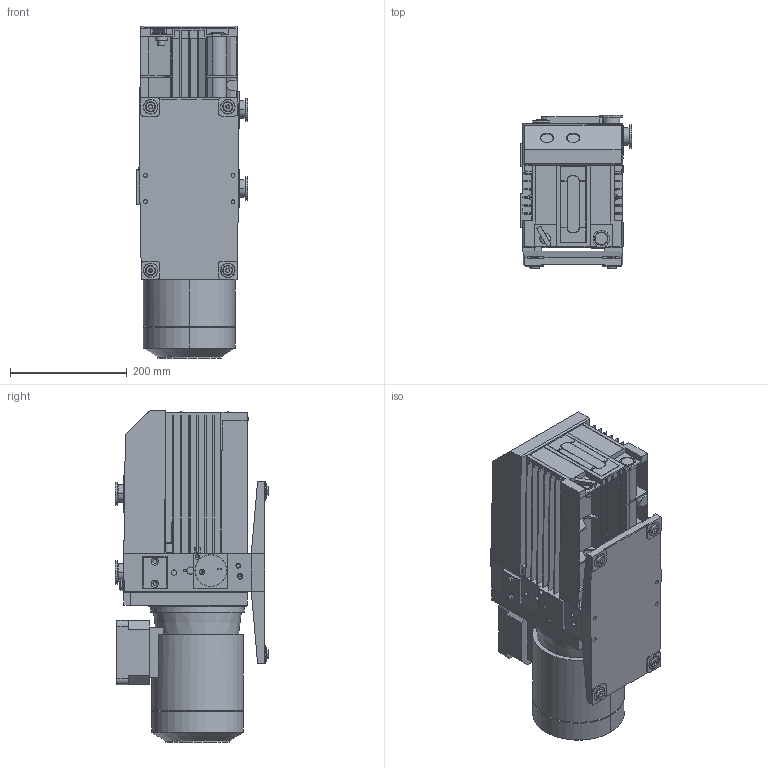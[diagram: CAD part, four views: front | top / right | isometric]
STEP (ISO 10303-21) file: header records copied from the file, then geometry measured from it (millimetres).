
FILE_DESCRIPTION((''),'2;1');
FILE_NAME('300591199_Y19_000_ASM','2016-03-09T',('56762'),('Copyright by Leybold GmbH'),'PRO/ENGINEER BY PARAMETRIC TECHNOLOGY CORPORATION, 2013320','PRO/ENGINEER BY PARAMETRIC TECHNOLOGY CORPORATION, 2013320','');
FILE_SCHEMA(('AUTOMOTIVE_DESIGN { 1 0 10303 214 1 1 1 1 }'));
Length unit declared in the file: millimetre
Products named in the file (22): 300591185_Y19_000; 300591187_Y19_000; 300591204_Y19_000; 300591212_Y19_000; 300591215_Y19_000; 300591188_Y19_000; 300591211_Y19_000; 300591201_Y19_000; 300590946_Y19_000; 300591208_Y19_000; 300591209_Y19_000; 300591197_Y19_000_ASM; 300590938_Y19_000; 300592868_Y19_000; 300591217_Y19_000; 300590913_Y19_000; 300590922_Y19_000_ASM; 300590935_Y19_000; 300591196_Y19_000; 300590903_Y19_000; 300590892_Y19_000; 300591199_Y19_000_ASM
Assembly tree (29 placements, depth 3):
  300591199_Y19_000_ASM
    300591197_Y19_000_ASM
      300591185_Y19_000
      300591187_Y19_000
      300591204_Y19_000
      300591212_Y19_000
      300591215_Y19_000
      300591188_Y19_000
      300591211_Y19_000
      300591201_Y19_000
      300590946_Y19_000
      300591208_Y19_000
      300591209_Y19_000
    300590938_Y19_000  x4
    300592868_Y19_000
    300591217_Y19_000
    300590922_Y19_000_ASM
      300590913_Y19_000
    300590935_Y19_000  x3
    300591196_Y19_000  x4
    300590903_Y19_000
    300590892_Y19_000
Bounding box: 190.4 x 262 x 568.29 mm (x, y, z)
Volume: 16444880.1 mm3; surface area: 1242054.6 mm2
Topology: 26 solids, 33 shells, 1234 faces, 3143 edges, 2050 vertices
Faces by surface type: plane 801, cylinder 293, cone 140
Entity records: 33480 total; most frequent: CARTESIAN_POINT 6637, DIRECTION 5319, ORIENTED_EDGE 5262, EDGE_CURVE 2631, VECTOR 1969, LINE 1969, VERTEX_POINT 1726, AXIS2_PLACEMENT_3D 1675
